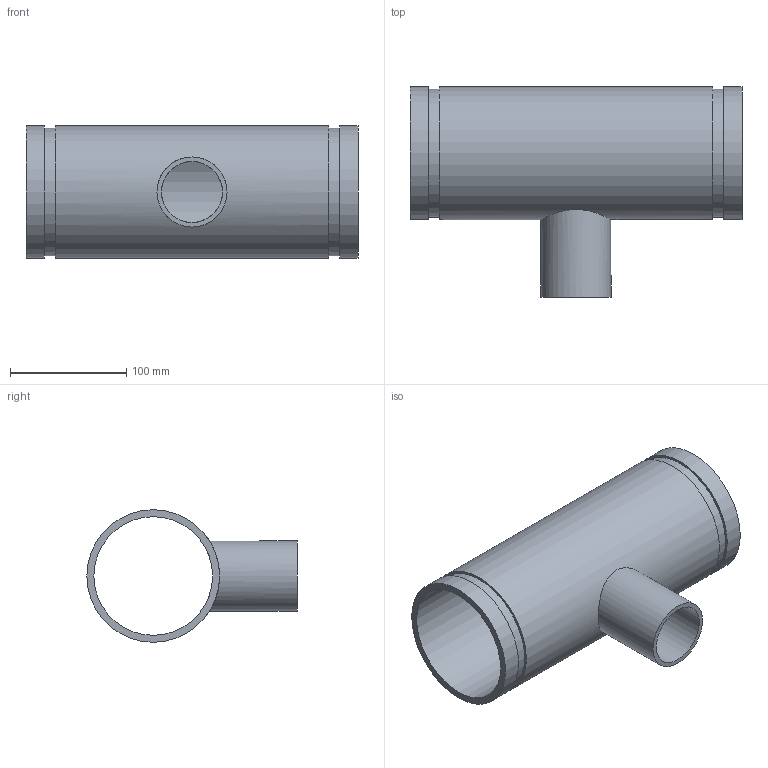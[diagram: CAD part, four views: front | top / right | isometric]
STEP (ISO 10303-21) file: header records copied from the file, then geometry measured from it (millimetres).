
FILE_DESCRIPTION(/* description */ ('VIC REDUCING TEE No 29T FFT (OGSxMPT)','CAx-IF Rec.Pracs.---Representation and Presentation of Product Manufacturing Information (PMI)---4.0---2014-10-13'),/* implementation_level */ '2;1');
FILE_NAME(/* name */ 'C:\Users\kkamble\AppData\Roaming\Autodesk\ApplicationPlugins\Back Up\Victaulic_IPS_Tee Reducing_No 29T FFT (OGSxMPT)\Victaulic_IPS_Tee Reducing_No 29T FFT (OGSxMPT)_04.0x02.0 (100x50).stp',/* time_stamp */ '2020-09-16T22:37:59+05:00',/* author */ ('CORINNE GRAY'),/* organization */ ('Victaulic'),/* preprocessor_version */ 'ST-DEVELOPER v17.2',/* originating_system */ 'Autodesk Inventor 2019',/* authorisation */ '');
FILE_SCHEMA (('AP242_MANAGED_MODEL_BASED_3D_ENGINEERING_MIM_LF { 1 0 10303 442 1 1 4 }'));
Length unit declared in the file: inch
Products named in the file (1): 29 FFT-04.0x02.0
Bounding box: 286 x 181.1 x 114.3 mm (x, y, z)
Volume: 606925.7 mm3; surface area: 222933 mm2
Topology: 1 solids, 1 shells, 15 faces, 32 edges, 24 vertices
Faces by surface type: cylinder 8, plane 7
Full cylindrical faces by diameter (mm): 52.502 x1, 60.325 x1, 102.26 x1, 110.084 x2, 114.3 x3
Entity records: 709 total; most frequent: CARTESIAN_POINT 221, DIRECTION 106, ORIENTED_EDGE 64, AXIS2_PLACEMENT_3D 49, EDGE_CURVE 32, EDGE_LOOP 24, VERTEX_POINT 24, CIRCLE 20
